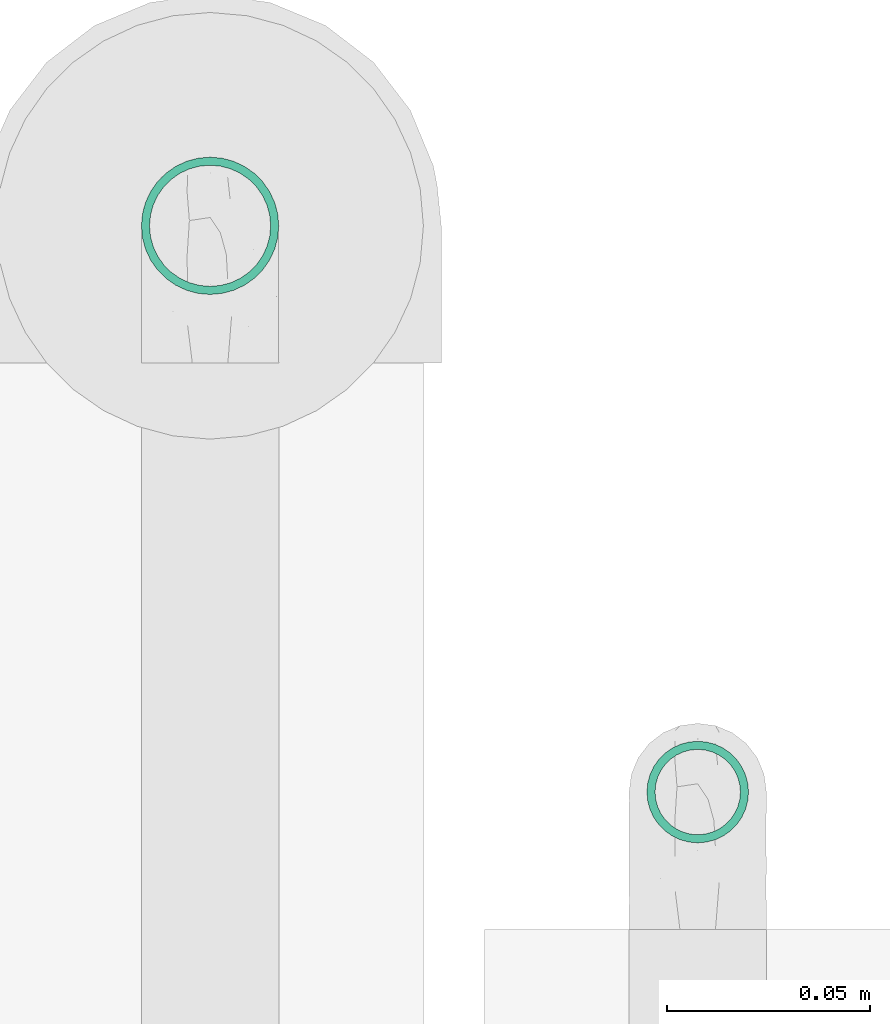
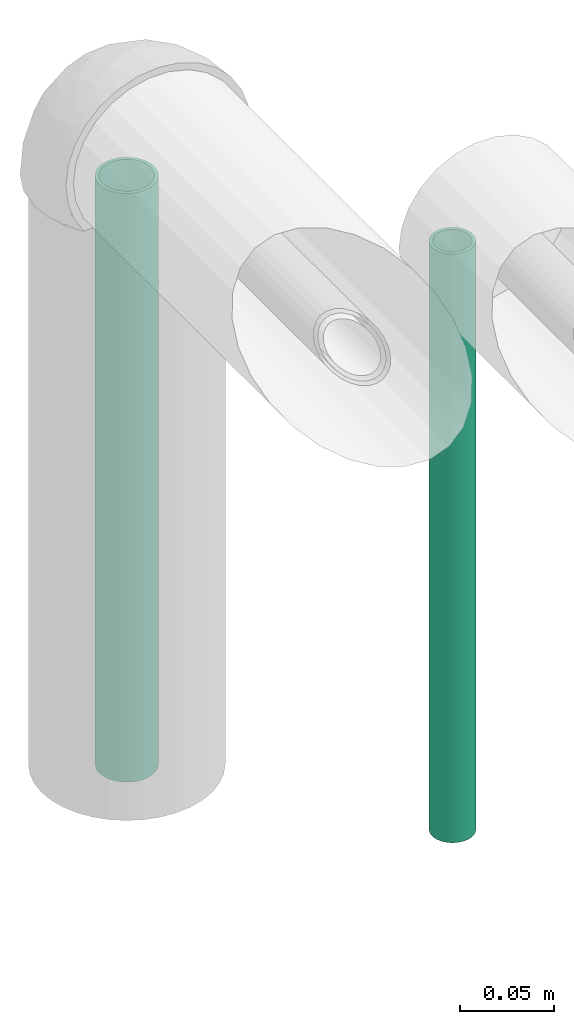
# One storey, part 14 of 17: 2 flow segments.
"""IFC2X3 building model written with IfcOpenShell, lengths in millimetres."""

from ifc_helpers import new_model, entity, si_unit, converted_unit, derived_unit, direction, frame, place, context, subcontext, project, spatial, faceted_brep, type_object, element, save


model = new_model("IFC2X3")

# Units and contexts
model_context = context("Model", 3, precision=0.01, world=frame((0.0, 4.29681676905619e-09, 0.0)), true_north=direction((4.01073788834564e-13, 1.0)))
plan_context = context("Plan", 3, precision=0.01, world=frame((0.0, 4.29681676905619e-09, 0.0)), true_north=direction((4.01073788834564e-13, 1.0)))
body_context = subcontext(model_context, "Body", "Model", "MODEL_VIEW")
ifc_project = project(units=[converted_unit("PLANEANGLEUNIT", "DEGREE", entity("IfcPositiveLengthMeasure", 0.0174532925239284), si_unit("PLANEANGLEUNIT", "RADIAN"), dimensions=[0, 0, 0, 0, 0, 0, 0]), si_unit("AREAUNIT", "SQUARE_METRE"), si_unit("LENGTHUNIT", "METRE", prefix="MILLI"), si_unit("MASSUNIT", "GRAM", prefix="KILO"), si_unit("POWERUNIT", "WATT"), si_unit("PRESSUREUNIT", "PASCAL", prefix="KILO"), si_unit("FORCEUNIT", "NEWTON", prefix="KILO"), si_unit("ELECTRICVOLTAGEUNIT", "VOLT"), si_unit("ELECTRICCURRENTUNIT", "AMPERE"), si_unit("THERMODYNAMICTEMPERATUREUNIT", "DEGREE_CELSIUS"), si_unit("TIMEUNIT", "SECOND"), si_unit("VOLUMEUNIT", "CUBIC_METRE"), derived_unit("LINEARVELOCITYUNIT", [(si_unit("LENGTHUNIT", "METRE"), 1), (si_unit("TIMEUNIT", "SECOND"), -1)]), derived_unit("VOLUMETRICFLOWRATEUNIT", [(si_unit("VOLUMEUNIT", "CUBIC_METRE"), 1), (si_unit("TIMEUNIT", "SECOND"), -1)]), derived_unit("THERMALTRANSMITTANCEUNIT", [(si_unit("POWERUNIT", "WATT"), 1), (si_unit("THERMODYNAMICTEMPERATUREUNIT", "KELVIN"), -1), (si_unit("AREAUNIT", "SQUARE_METRE"), -1)]), derived_unit("SOUNDPRESSUREUNIT", [(si_unit("PRESSUREUNIT", "PASCAL"), 1)])], contexts=[model_context, plan_context])

# Site, building, storey
site_placement = place(None, frame((0.0, -4.29681676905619e-09, 0.0), z_axis=(0.0, 0.0, 1.0), x_axis=(1.0, 0.0, 0.0)))
site = spatial("IfcSite", under=ifc_project, at=site_placement, Name="ENGM", CompositionType="ELEMENT")
building_placement = place(site_placement, frame((0.0, 4.29681676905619e-09, 0.0), z_axis=(0.0, 0.0, 1.0), x_axis=(1.0, 0.0, 0.0)))
building = spatial("IfcBuilding", under=site, at=building_placement, Name="TI", CompositionType="ELEMENT")
storey_placement = place(building_placement, frame((0.0, 0.0, 207370.0), z_axis=(0.0, 0.0, 1.0), x_axis=(1.0, 0.0, 0.0)))
storey = spatial("IfcBuildingStorey", under=building, at=storey_placement, Name="Nivå E", CompositionType="ELEMENT", Elevation=207370.0)

# Flow segments
pipe_segment_type = type_object("IfcPipeSegmentType", Name="Stålrør normaltykke", PredefinedType="RIGIDSEGMENT")
flow_segment_1_placement = place(storey_placement, frame((585389.97776, 573914.96996, 2135.60000000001), z_axis=(0.0, 1.0, 0.0), x_axis=(0.0, 0.0, 1.0)))
element("IfcFlowSegment", 1, at=flow_segment_1_placement, inside=storey, type_object=pipe_segment_type, Name="Stålrør normaltykke", context=body_context, shape_type="Brep", body=[
    faceted_brep([(394.399999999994, 10.3404814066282, -1.82330586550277), (394.399999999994, 10.5, 0.0), (777.5, 10.5, 0.0), (777.5, 10.3404814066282, -1.82330586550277), (394.399999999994, 9.86677251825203, -3.59121150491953), (777.5, 9.86677251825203, -3.59121150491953), (394.399999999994, 9.0932667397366, -5.25), (777.5, 9.0932667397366, -5.25), (394.399999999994, 8.04346665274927, -6.74926990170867), (777.5, 8.04346665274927, -6.74926990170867), (394.399999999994, 6.74926990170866, -8.04346665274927), (777.5, 6.74926990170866, -8.04346665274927), (394.399999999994, 5.25, -9.09326673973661), (777.5, 5.25, -9.09326673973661), (394.399999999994, 3.59121150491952, -9.86677251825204), (777.5, 3.59121150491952, -9.86677251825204), (394.399999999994, 1.82330586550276, -10.3404814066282), (777.5, 1.82330586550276, -10.3404814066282), (394.399999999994, -1.92881870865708e-15, -10.5), (777.5, -1.92881870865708e-15, -10.5), (394.399999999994, -1.82330586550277, -10.3404814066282), (777.5, -1.82330586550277, -10.3404814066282), (394.399999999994, -3.59121150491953, -9.86677251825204), (777.5, -3.59121150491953, -9.86677251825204), (394.399999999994, -5.25, -9.0932667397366), (777.5, -5.25, -9.0932667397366), (394.399999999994, -6.74926990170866, -8.04346665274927), (777.5, -6.74926990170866, -8.04346665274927), (394.399999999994, -8.04346665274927, -6.74926990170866), (777.5, -8.04346665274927, -6.74926990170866), (394.399999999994, -9.09326673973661, -5.25), (777.5, -9.09326673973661, -5.25), (394.399999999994, -9.86677251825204, -3.59121150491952), (777.5, -9.86677251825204, -3.59121150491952), (394.399999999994, -10.3404814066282, -1.82330586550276), (777.5, -10.3404814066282, -1.82330586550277), (394.399999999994, -10.5, 1.28587913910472e-15), (777.5, -10.5, 1.28587913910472e-15), (394.399999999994, -10.3404814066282, 1.82330586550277), (777.5, -10.3404814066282, 1.82330586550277), (394.399999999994, -9.86677251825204, 3.59121150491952), (777.5, -9.86677251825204, 3.59121150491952), (394.399999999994, -9.09326673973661, 5.25), (777.5, -9.09326673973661, 5.25), (394.399999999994, -8.04346665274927, 6.74926990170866), (777.5, -8.04346665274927, 6.74926990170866), (394.399999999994, -6.74926990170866, 8.04346665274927), (777.5, -6.74926990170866, 8.04346665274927), (394.399999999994, -5.25, 9.09326673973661), (777.5, -5.25, 9.09326673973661), (394.399999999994, -3.59121150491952, 9.86677251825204), (777.5, -3.59121150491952, 9.86677251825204), (394.399999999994, -1.82330586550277, 10.3404814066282), (777.5, -1.82330586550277, 10.3404814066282), (394.399999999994, 6.4293956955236e-16, 10.5), (777.5, 6.4293956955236e-16, 10.5), (394.399999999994, 1.82330586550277, 10.3404814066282), (777.5, 1.82330586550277, 10.3404814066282), (394.399999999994, 3.59121150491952, 9.86677251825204), (777.5, 3.59121150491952, 9.86677251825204), (394.399999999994, 5.25, 9.09326673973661), (777.5, 5.25, 9.09326673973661), (394.399999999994, 6.74926990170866, 8.04346665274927), (777.5, 6.74926990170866, 8.04346665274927), (394.399999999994, 8.04346665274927, 6.74926990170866), (777.5, 8.04346665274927, 6.74926990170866), (394.399999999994, 9.09326673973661, 5.25), (777.5, 9.09326673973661, 5.25), (394.399999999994, 9.86677251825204, 3.59121150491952), (777.5, 9.86677251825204, 3.59121150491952), (394.399999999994, 10.3404814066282, 1.82330586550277), (777.5, 10.3404814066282, 1.82330586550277), (394.399999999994, 12.5, 0.0), (394.399999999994, 12.3100969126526, -2.17060222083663), (777.5, 12.3100969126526, -2.17060222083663), (777.5, 12.5, 0.0), (394.399999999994, 12.3100969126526, 2.17060222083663), (777.5, 12.3100969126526, 2.17060222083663), (394.399999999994, 11.7461577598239, 4.27525179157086), (777.5, 11.7461577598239, 4.27525179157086), (394.399999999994, 10.8253175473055, 6.25), (777.5, 10.8253175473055, 6.25), (394.399999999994, 9.57555553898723, 8.03484512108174), (777.5, 9.57555553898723, 8.03484512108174), (394.399999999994, 8.03484512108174, 9.57555553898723), (777.5, 8.03484512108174, 9.57555553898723), (394.399999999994, 6.25, 10.8253175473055), (777.5, 6.25, 10.8253175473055), (394.399999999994, 4.27525179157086, 11.7461577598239), (777.5, 4.27525179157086, 11.7461577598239), (394.399999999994, 2.17060222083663, 12.3100969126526), (777.5, 2.17060222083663, 12.3100969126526), (394.399999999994, 7.65404249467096e-16, 12.5), (777.5, 7.65404249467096e-16, 12.5), (394.399999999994, -2.17060222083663, 12.3100969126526), (777.5, -2.17060222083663, 12.3100969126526), (394.399999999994, -4.27525179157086, 11.7461577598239), (777.5, -4.27525179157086, 11.7461577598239), (394.399999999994, -6.25, 10.8253175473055), (777.5, -6.25, 10.8253175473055), (394.399999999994, -8.03484512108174, 9.57555553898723), (777.5, -8.03484512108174, 9.57555553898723), (394.399999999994, -9.57555553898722, 8.03484512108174), (777.5, -9.57555553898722, 8.03484512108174), (394.399999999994, -10.8253175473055, 6.25), (777.5, -10.8253175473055, 6.25), (394.399999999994, -11.7461577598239, 4.27525179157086), (777.5, -11.7461577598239, 4.27525179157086), (394.399999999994, -12.3100969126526, 2.17060222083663), (777.5, -12.3100969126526, 2.17060222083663), (394.399999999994, -12.5, 1.53080849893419e-15), (777.5, -12.5, 1.53080849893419e-15), (394.399999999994, -12.3100969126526, -2.17060222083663), (777.5, -12.3100969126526, -2.17060222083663), (394.399999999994, -11.7461577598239, -4.27525179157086), (777.5, -11.7461577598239, -4.27525179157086), (394.399999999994, -10.8253175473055, -6.25), (777.5, -10.8253175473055, -6.25), (394.399999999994, -9.57555553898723, -8.03484512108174), (777.5, -9.57555553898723, -8.03484512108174), (394.399999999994, -8.03484512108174, -9.57555553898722), (777.5, -8.03484512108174, -9.57555553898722), (394.399999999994, -6.25000000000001, -10.8253175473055), (777.5, -6.25000000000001, -10.8253175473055), (394.399999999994, -4.27525179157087, -11.7461577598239), (777.5, -4.27525179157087, -11.7461577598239), (394.399999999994, -2.17060222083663, -12.3100969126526), (777.5, -2.17060222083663, -12.3100969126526), (394.399999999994, -2.29621274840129e-15, -12.5), (777.5, -2.29621274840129e-15, -12.5), (394.399999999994, 2.17060222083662, -12.3100969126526), (777.5, 2.17060222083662, -12.3100969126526), (394.399999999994, 4.27525179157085, -11.7461577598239), (777.5, 4.27525179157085, -11.7461577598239), (394.399999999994, 6.25, -10.8253175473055), (777.5, 6.25, -10.8253175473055), (394.399999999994, 8.03484512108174, -9.57555553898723), (777.5, 8.03484512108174, -9.57555553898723), (394.399999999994, 9.57555553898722, -8.03484512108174), (777.5, 9.57555553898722, -8.03484512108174), (394.399999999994, 10.8253175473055, -6.25000000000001), (777.5, 10.8253175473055, -6.25000000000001), (394.399999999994, 11.7461577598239, -4.27525179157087), (777.5, 11.7461577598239, -4.27525179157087)], [[[0, 1, 2, 3]], [[4, 0, 3, 5]], [[6, 4, 5, 7]], [[8, 6, 7, 9]], [[10, 8, 9, 11]], [[12, 10, 11, 13]], [[14, 12, 13, 15]], [[16, 14, 15, 17]], [[18, 16, 17, 19]], [[20, 18, 19, 21]], [[22, 20, 21, 23]], [[24, 22, 23, 25]], [[26, 24, 25, 27]], [[28, 26, 27, 29]], [[30, 28, 29, 31]], [[32, 30, 31, 33]], [[34, 32, 33, 35]], [[36, 34, 35, 37]], [[38, 36, 37, 39]], [[40, 38, 39, 41]], [[42, 40, 41, 43]], [[44, 42, 43, 45]], [[46, 44, 45, 47]], [[48, 46, 47, 49]], [[50, 48, 49, 51]], [[52, 50, 51, 53]], [[54, 52, 53, 55]], [[56, 54, 55, 57]], [[58, 56, 57, 59]], [[60, 58, 59, 61]], [[62, 60, 61, 63]], [[64, 62, 63, 65]], [[66, 64, 65, 67]], [[68, 66, 67, 69]], [[70, 68, 69, 71]], [[1, 70, 71, 2]], [[72, 73, 74, 75]], [[76, 72, 75, 77]], [[78, 76, 77, 79]], [[80, 78, 79, 81]], [[82, 80, 81, 83]], [[84, 82, 83, 85]], [[86, 84, 85, 87]], [[88, 86, 87, 89]], [[90, 88, 89, 91]], [[92, 90, 91, 93]], [[94, 92, 93, 95]], [[96, 94, 95, 97]], [[98, 96, 97, 99]], [[100, 98, 99, 101]], [[102, 100, 101, 103]], [[104, 102, 103, 105]], [[106, 104, 105, 107]], [[108, 106, 107, 109]], [[110, 108, 109, 111]], [[112, 110, 111, 113]], [[114, 112, 113, 115]], [[116, 114, 115, 117]], [[118, 116, 117, 119]], [[120, 118, 119, 121]], [[122, 120, 121, 123]], [[124, 122, 123, 125]], [[126, 124, 125, 127]], [[128, 126, 127, 129]], [[130, 128, 129, 131]], [[132, 130, 131, 133]], [[134, 132, 133, 135]], [[136, 134, 135, 137]], [[138, 136, 137, 139]], [[140, 138, 139, 141]], [[142, 140, 141, 143]], [[73, 142, 143, 74]], [[75, 74, 143, 141, 139, 137, 135, 133, 131, 129, 127, 125, 123, 121, 119, 117, 115, 113, 111, 109, 107, 105, 103, 101, 99, 97, 95, 93, 91, 89, 87, 85, 83, 81, 79, 77], [2, 71, 69, 67, 65, 63, 61, 59, 57, 55, 53, 51, 49, 47, 45, 43, 41, 39, 37, 35, 33, 31, 29, 27, 25, 23, 21, 19, 17, 15, 13, 11, 9, 7, 5, 3]], [[76, 78, 80, 82, 84, 86, 88, 90, 92, 94, 96, 98, 100, 102, 104, 106, 108, 110, 112, 114, 116, 118, 120, 122, 124, 126, 128, 130, 132, 134, 136, 138, 140, 142, 73, 72], [4, 6, 8, 10, 12, 14, 16, 18, 20, 22, 24, 26, 28, 30, 32, 34, 36, 38, 40, 42, 44, 46, 48, 50, 52, 54, 56, 58, 60, 62, 64, 66, 68, 70, 1, 0]]], orient=[[False], [False], [False], [False], [False], [False], [False], [False], [False], [False], [False], [False], [False], [False], [False], [False], [False], [False], [False], [False], [False], [False], [False], [False], [False], [False], [False], [False], [False], [False], [False], [False], [False], [False], [False], [False], [False], [False], [False], [False], [False], [False], [False], [False], [False], [False], [False], [False], [False], [False], [False], [False], [False], [False], [False], [False], [False], [False], [False], [False], [False], [False], [False], [False], [False], [False], [False], [False], [False], [False], [False], [False], [False, False], [False, False]]),
])
flow_segment_2_placement = place(storey_placement, frame((585269.96633, 574054.33025, 2135.60000000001), z_axis=(0.0, 1.0, 0.0), x_axis=(0.0, 0.0, 1.0)))
element("IfcFlowSegment", 2, at=flow_segment_2_placement, inside=storey, type_object=pipe_segment_type, Name="Stålrør normaltykke", context=body_context, shape_type="Brep", body=[
    faceted_brep([(394.399999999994, 14.6736355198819, -2.58735784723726), (394.399999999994, 14.9, 0.0), (777.5, 14.9, 0.0), (777.5, 14.6736355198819, -2.58735784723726), (394.399999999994, 14.00142004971, -5.09610013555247), (777.5, 14.00142004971, -5.09610013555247), (394.399999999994, 12.9037785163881, -7.45), (777.5, 12.9037785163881, -7.45000000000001), (394.399999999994, 11.4140622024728, -9.57753538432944), (777.5, 11.4140622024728, -9.57753538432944), (394.399999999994, 9.57753538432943, -11.4140622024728), (777.5, 9.57753538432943, -11.4140622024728), (394.399999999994, 7.45, -12.9037785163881), (777.5, 7.45, -12.9037785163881), (394.399999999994, 5.09610013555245, -14.00142004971), (777.5, 5.09610013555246, -14.00142004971), (394.399999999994, 2.58735784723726, -14.6736355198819), (777.5, 2.58735784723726, -14.6736355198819), (394.399999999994, -2.73708559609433e-15, -14.9), (777.5, -2.73708559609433e-15, -14.9), (394.399999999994, -2.58735784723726, -14.6736355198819), (777.5, -2.58735784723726, -14.6736355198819), (394.399999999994, -5.09610013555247, -14.00142004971), (777.5, -5.09610013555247, -14.00142004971), (394.399999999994, -7.45, -12.9037785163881), (777.5, -7.45000000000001, -12.9037785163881), (394.399999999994, -9.57753538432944, -11.4140622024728), (777.5, -9.57753538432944, -11.4140622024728), (394.399999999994, -11.4140622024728, -9.57753538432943), (777.5, -11.4140622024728, -9.57753538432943), (394.399999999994, -12.9037785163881, -7.44999999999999), (777.5, -12.9037785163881, -7.44999999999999), (394.399999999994, -14.00142004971, -5.09610013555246), (777.5, -14.00142004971, -5.09610013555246), (394.399999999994, -14.6736355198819, -2.58735784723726), (777.5, -14.6736355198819, -2.58735784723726), (394.399999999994, -14.9, 1.82472373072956e-15), (777.5, -14.9, 1.82472373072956e-15), (394.399999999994, -14.6736355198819, 2.58735784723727), (777.5, -14.6736355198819, 2.58735784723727), (394.399999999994, -14.00142004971, 5.09610013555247), (777.5, -14.00142004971, 5.09610013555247), (394.399999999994, -12.9037785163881, 7.45), (777.5, -12.9037785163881, 7.45), (394.399999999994, -11.4140622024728, 9.57753538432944), (777.5, -11.4140622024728, 9.57753538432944), (394.399999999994, -9.57753538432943, 11.4140622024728), (777.5, -9.57753538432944, 11.4140622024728), (394.399999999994, -7.45, 12.9037785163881), (777.5, -7.45, 12.9037785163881), (394.399999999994, -5.09610013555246, 14.00142004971), (777.5, -5.09610013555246, 14.00142004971), (394.399999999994, -2.58735784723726, 14.6736355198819), (777.5, -2.58735784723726, 14.6736355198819), (394.399999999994, 9.12361865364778e-16, 14.9), (777.5, 9.12361865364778e-16, 14.9), (394.399999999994, 2.58735784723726, 14.6736355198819), (777.5, 2.58735784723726, 14.6736355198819), (394.399999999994, 5.09610013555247, 14.00142004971), (777.5, 5.09610013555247, 14.00142004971), (394.399999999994, 7.45, 12.9037785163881), (777.5, 7.45, 12.9037785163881), (394.399999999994, 9.57753538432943, 11.4140622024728), (777.5, 9.57753538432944, 11.4140622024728), (394.399999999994, 11.4140622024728, 9.57753538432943), (777.5, 11.4140622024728, 9.57753538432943), (394.399999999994, 12.9037785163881, 7.45), (777.5, 12.9037785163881, 7.45), (394.399999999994, 14.00142004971, 5.09610013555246), (777.5, 14.00142004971, 5.09610013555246), (394.399999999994, 14.6736355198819, 2.58735784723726), (777.5, 14.6736355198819, 2.58735784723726), (394.399999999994, 16.9, 0.0), (394.399999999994, 16.6432510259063, -2.93465420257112), (777.5, 16.6432510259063, -2.93465420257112), (777.5, 16.9, 0.0), (394.399999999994, 16.6432510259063, 2.93465420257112), (777.5, 16.6432510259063, 2.93465420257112), (394.399999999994, 15.8808052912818, 5.7801404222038), (777.5, 15.8808052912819, 5.7801404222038), (394.399999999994, 14.635829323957, 8.45), (777.5, 14.635829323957, 8.45), (394.399999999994, 12.9461510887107, 10.8631106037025), (777.5, 12.9461510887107, 10.8631106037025), (394.399999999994, 10.8631106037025, 12.9461510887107), (777.5, 10.8631106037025, 12.9461510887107), (394.399999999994, 8.45, 14.635829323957), (777.5, 8.45, 14.635829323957), (394.399999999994, 5.7801404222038, 15.8808052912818), (777.5, 5.7801404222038, 15.8808052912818), (394.399999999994, 2.93465420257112, 16.6432510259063), (777.5, 2.93465420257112, 16.6432510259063), (394.399999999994, 1.03482654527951e-15, 16.9), (777.5, 1.03482654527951e-15, 16.9), (394.399999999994, -2.93465420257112, 16.6432510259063), (777.5, -2.93465420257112, 16.6432510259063), (394.399999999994, -5.7801404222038, 15.8808052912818), (777.5, -5.7801404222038, 15.8808052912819), (394.399999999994, -8.45, 14.635829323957), (777.5, -8.45, 14.635829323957), (394.399999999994, -10.8631106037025, 12.9461510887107), (777.5, -10.8631106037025, 12.9461510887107), (394.399999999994, -12.9461510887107, 10.8631106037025), (777.5, -12.9461510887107, 10.8631106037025), (394.399999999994, -14.635829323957, 8.45), (777.5, -14.635829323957, 8.45), (394.399999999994, -15.8808052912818, 5.7801404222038), (777.5, -15.8808052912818, 5.7801404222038), (394.399999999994, -16.6432510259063, 2.93465420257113), (777.5, -16.6432510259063, 2.93465420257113), (394.399999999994, -16.9, 2.06965309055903e-15), (777.5, -16.9, 2.06965309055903e-15), (394.399999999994, -16.6432510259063, -2.93465420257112), (777.5, -16.6432510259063, -2.93465420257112), (394.399999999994, -15.8808052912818, -5.7801404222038), (777.5, -15.8808052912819, -5.7801404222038), (394.399999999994, -14.635829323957, -8.44999999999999), (777.5, -14.635829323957, -8.44999999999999), (394.399999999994, -12.9461510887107, -10.8631106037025), (777.5, -12.9461510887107, -10.8631106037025), (394.399999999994, -10.8631106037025, -12.9461510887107), (777.5, -10.8631106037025, -12.9461510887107), (394.399999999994, -8.45000000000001, -14.635829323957), (777.5, -8.45000000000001, -14.635829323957), (394.399999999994, -5.78014042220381, -15.8808052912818), (777.5, -5.78014042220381, -15.8808052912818), (394.399999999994, -2.93465420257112, -16.6432510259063), (777.5, -2.93465420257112, -16.6432510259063), (394.399999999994, -3.10447963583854e-15, -16.9), (777.5, -3.10447963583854e-15, -16.9), (394.399999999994, 2.93465420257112, -16.6432510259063), (777.5, 2.93465420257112, -16.6432510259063), (394.399999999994, 5.78014042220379, -15.8808052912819), (777.5, 5.78014042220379, -15.8808052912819), (394.399999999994, 8.45, -14.635829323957), (777.5, 8.45, -14.635829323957), (394.399999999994, 10.8631106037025, -12.9461510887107), (777.5, 10.8631106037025, -12.9461510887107), (394.399999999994, 12.9461510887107, -10.8631106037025), (777.5, 12.9461510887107, -10.8631106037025), (394.399999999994, 14.635829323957, -8.45000000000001), (777.5, 14.635829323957, -8.45000000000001), (394.399999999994, 15.8808052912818, -5.78014042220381), (777.5, 15.8808052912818, -5.78014042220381)], [[[0, 1, 2, 3]], [[4, 0, 3, 5]], [[6, 4, 5, 7]], [[8, 6, 7, 9]], [[10, 8, 9, 11]], [[12, 10, 11, 13]], [[14, 12, 13, 15]], [[16, 14, 15, 17]], [[18, 16, 17, 19]], [[20, 18, 19, 21]], [[22, 20, 21, 23]], [[24, 22, 23, 25]], [[26, 24, 25, 27]], [[28, 26, 27, 29]], [[30, 28, 29, 31]], [[32, 30, 31, 33]], [[34, 32, 33, 35]], [[36, 34, 35, 37]], [[38, 36, 37, 39]], [[40, 38, 39, 41]], [[42, 40, 41, 43]], [[44, 42, 43, 45]], [[46, 44, 45, 47]], [[48, 46, 47, 49]], [[50, 48, 49, 51]], [[52, 50, 51, 53]], [[54, 52, 53, 55]], [[56, 54, 55, 57]], [[58, 56, 57, 59]], [[60, 58, 59, 61]], [[62, 60, 61, 63]], [[64, 62, 63, 65]], [[66, 64, 65, 67]], [[68, 66, 67, 69]], [[70, 68, 69, 71]], [[1, 70, 71, 2]], [[72, 73, 74, 75]], [[76, 72, 75, 77]], [[78, 76, 77, 79]], [[80, 78, 79, 81]], [[82, 80, 81, 83]], [[84, 82, 83, 85]], [[86, 84, 85, 87]], [[88, 86, 87, 89]], [[90, 88, 89, 91]], [[92, 90, 91, 93]], [[94, 92, 93, 95]], [[96, 94, 95, 97]], [[98, 96, 97, 99]], [[100, 98, 99, 101]], [[102, 100, 101, 103]], [[104, 102, 103, 105]], [[106, 104, 105, 107]], [[108, 106, 107, 109]], [[110, 108, 109, 111]], [[112, 110, 111, 113]], [[114, 112, 113, 115]], [[116, 114, 115, 117]], [[118, 116, 117, 119]], [[120, 118, 119, 121]], [[122, 120, 121, 123]], [[124, 122, 123, 125]], [[126, 124, 125, 127]], [[128, 126, 127, 129]], [[130, 128, 129, 131]], [[132, 130, 131, 133]], [[134, 132, 133, 135]], [[136, 134, 135, 137]], [[138, 136, 137, 139]], [[140, 138, 139, 141]], [[142, 140, 141, 143]], [[73, 142, 143, 74]], [[75, 74, 143, 141, 139, 137, 135, 133, 131, 129, 127, 125, 123, 121, 119, 117, 115, 113, 111, 109, 107, 105, 103, 101, 99, 97, 95, 93, 91, 89, 87, 85, 83, 81, 79, 77], [2, 71, 69, 67, 65, 63, 61, 59, 57, 55, 53, 51, 49, 47, 45, 43, 41, 39, 37, 35, 33, 31, 29, 27, 25, 23, 21, 19, 17, 15, 13, 11, 9, 7, 5, 3]], [[76, 78, 80, 82, 84, 86, 88, 90, 92, 94, 96, 98, 100, 102, 104, 106, 108, 110, 112, 114, 116, 118, 120, 122, 124, 126, 128, 130, 132, 134, 136, 138, 140, 142, 73, 72], [4, 6, 8, 10, 12, 14, 16, 18, 20, 22, 24, 26, 28, 30, 32, 34, 36, 38, 40, 42, 44, 46, 48, 50, 52, 54, 56, 58, 60, 62, 64, 66, 68, 70, 1, 0]]], orient=[[False], [False], [False], [False], [False], [False], [False], [False], [False], [False], [False], [False], [False], [False], [False], [False], [False], [False], [False], [False], [False], [False], [False], [False], [False], [False], [False], [False], [False], [False], [False], [False], [False], [False], [False], [False], [False], [False], [False], [False], [False], [False], [False], [False], [False], [False], [False], [False], [False], [False], [False], [False], [False], [False], [False], [False], [False], [False], [False], [False], [False], [False], [False], [False], [False], [False], [False], [False], [False], [False], [False], [False], [False, False], [False, False]]),
])

save(model, "model.ifc")
